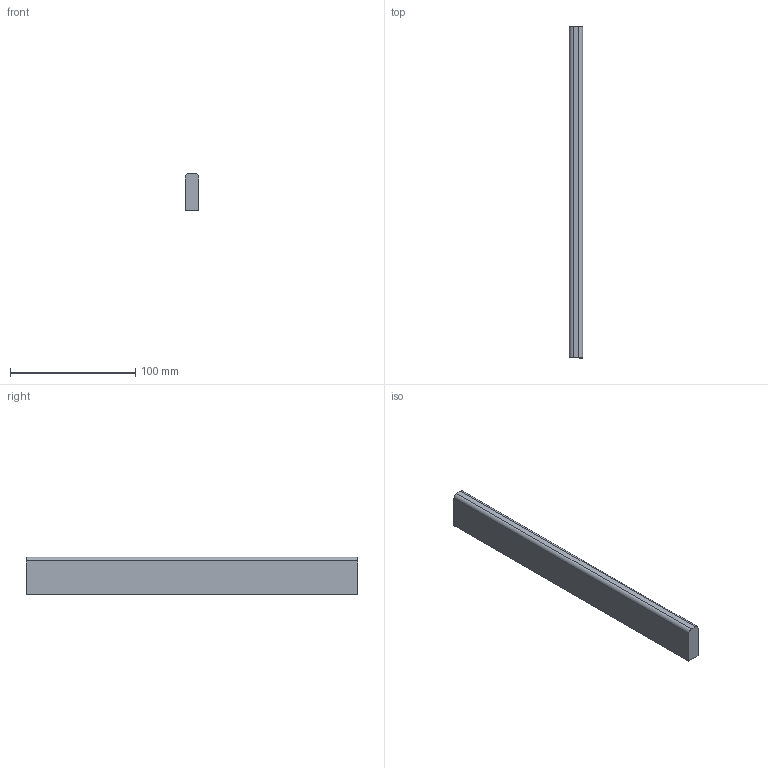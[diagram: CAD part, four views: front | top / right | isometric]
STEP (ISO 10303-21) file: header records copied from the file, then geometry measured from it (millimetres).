
FILE_DESCRIPTION (( 'STEP AP214' ), '1' );
FILE_NAME ('_Seitenreling_SP60700300_RL265.step', '2010-09-06T14:51:52', ( 'grass' ), ( '' ), 'SwSTEP 2.0', 'SolidWorks 2010', '' );
FILE_SCHEMA (( 'AUTOMOTIVE_DESIGN' ));
Length unit declared in the file: millimetre
Products named in the file (1): _Seitenreling_SP60700300_RL265
Bounding box: 10.5 x 265 x 30 mm (x, y, z)
Volume: 82451.3 mm3; surface area: 21404.8 mm2
Topology: 1 solids, 1 shells, 8 faces, 18 edges, 12 vertices
Faces by surface type: plane 6, cylinder 2
Entity records: 260 total; most frequent: DIRECTION 40, CARTESIAN_POINT 39, ORIENTED_EDGE 36, EDGE_CURVE 18, LINE 14, VECTOR 14, AXIS2_PLACEMENT_3D 13, VERTEX_POINT 12
